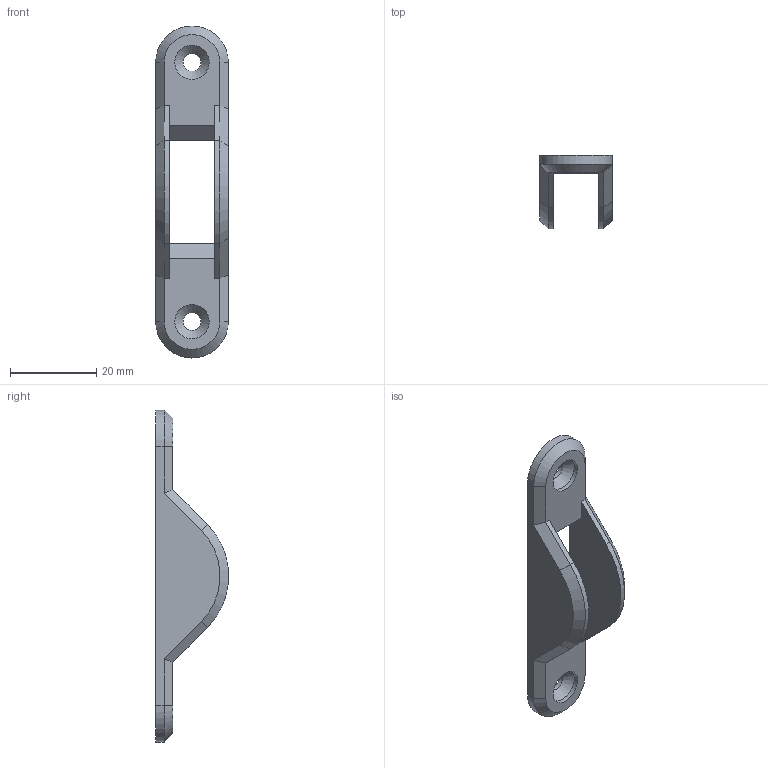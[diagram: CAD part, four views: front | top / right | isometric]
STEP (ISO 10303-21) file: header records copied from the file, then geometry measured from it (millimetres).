
FILE_DESCRIPTION(/* description */ ('STEP AP242','CAx-IF Rec.Pracs.---Representation and Presentation of Product Manufacturing Information (PMI)---4.0---2014-10-13','CAx-IF Rec.Pracs.---3D Tessellated Geometry---0.4---2014-09-14','2;1'),/* implementation_level */ '2;1');
FILE_NAME(/* name */ '677207bdbee32b29acb63044',/* time_stamp */ '2024-12-30T02:38:53Z',/* author */ (''),/* organization */ (''),/* preprocessor_version */ 'ST-DEVELOPER v20',/* originating_system */ 'ONSHAPE BY PTC INC, 1.191',/* authorisation */ ' ');
FILE_SCHEMA (('AP242_MANAGED_MODEL_BASED_3D_ENGINEERING_MIM_LF { 1 0 10303 442 1 1 4 }'));
Length unit declared in the file: metre
Products named in the file (1): Part 1
Bounding box: 16.9 x 16.94 x 77.15 mm (x, y, z)
Volume: 5390.3 mm3; surface area: 4177.1 mm2
Topology: 1 solids, 1 shells, 37 faces, 92 edges, 56 vertices
Faces by surface type: plane 23, cylinder 8, cone 6
Full cylindrical faces by diameter (mm): 4.1 x2, 8 x2
Entity records: 1082 total; most frequent: DIRECTION 182, CARTESIAN_POINT 180, ORIENTED_EDGE 172, EDGE_CURVE 86, LINE 66, VECTOR 66, AXIS2_PLACEMENT_3D 58, VERTEX_POINT 56
